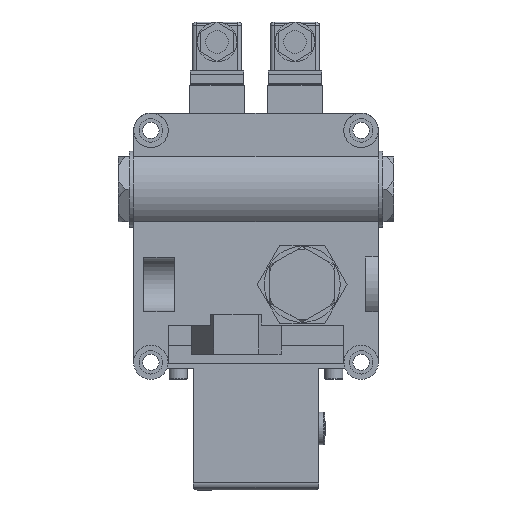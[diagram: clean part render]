
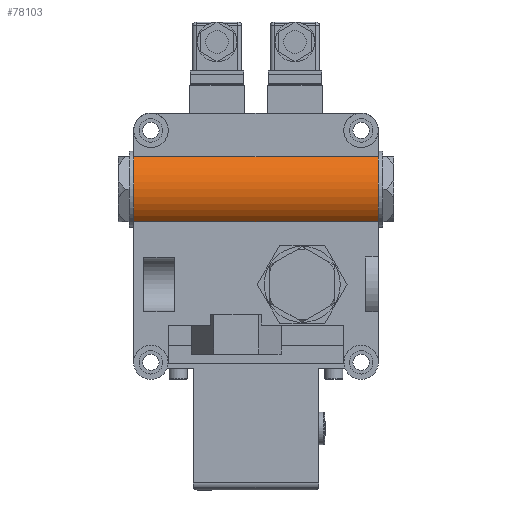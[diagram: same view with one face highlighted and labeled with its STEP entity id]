
A CAD part, front view. The second image highlights one B-rep face of the part: STEP entity #78103.
In plain terms, the highlighted cylindrical face has radius 24 mm (diameter 48 mm), a partial arc.
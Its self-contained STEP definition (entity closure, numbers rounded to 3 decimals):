
#3819 = VERTEX_POINT ( 'NONE', #20021 ) ;
#7786 = DIRECTION ( 'NONE',  ( 0., 0., -1. ) ) ;
#8376 = EDGE_CURVE ( 'NONE', #36100, #61249, #33470, .T. ) ;
#8415 = CARTESIAN_POINT ( 'NONE',  ( -67.5, -64.75, 68.111 ) ) ;
#9682 = ORIENTED_EDGE ( 'NONE', *, *, #8376, .F. ) ;
#12079 = EDGE_CURVE ( 'NONE', #3819, #22883, #44447, .T. ) ;
#14762 = EDGE_CURVE ( 'NONE', #22883, #36100, #56708, .T. ) ;
#18119 = CARTESIAN_POINT ( 'NONE',  ( 67.5, -48.75, 86. ) ) ;
#19392 = EDGE_LOOP ( 'NONE', ( #27434, #88117, #9682, #88107 ) ) ;
#20021 = CARTESIAN_POINT ( 'NONE',  ( -67.5, -64.75, 103.889 ) ) ;
#20037 = EDGE_CURVE ( 'NONE', #3819, #61249, #39459, .T. ) ;
#22883 = VERTEX_POINT ( 'NONE', #79455 ) ;
#24906 = AXIS2_PLACEMENT_3D ( 'NONE', #35635, #63496, #7786 ) ;
#27434 = ORIENTED_EDGE ( 'NONE', *, *, #12079, .F. ) ;
#31470 = CARTESIAN_POINT ( 'NONE',  ( 67.5, -48.75, 86. ) ) ;
#32553 = CARTESIAN_POINT ( 'NONE',  ( 67.5, -64.75, 68.111 ) ) ;
#33470 = LINE ( 'NONE', #32553, #86100 ) ;
#35635 = CARTESIAN_POINT ( 'NONE',  ( -67.5, -48.75, 86. ) ) ;
#36100 = VERTEX_POINT ( 'NONE', #66148 ) ;
#38662 = FACE_OUTER_BOUND ( 'NONE', #19392, .T. ) ;
#39459 = CIRCLE ( 'NONE', #24906, 24. ) ;
#40033 = CYLINDRICAL_SURFACE ( 'NONE', #87048, 24. ) ;
#44447 = LINE ( 'NONE', #85139, #78174 ) ;
#46436 = DIRECTION ( 'NONE',  ( 0., 0., -1. ) ) ;
#50891 = DIRECTION ( 'NONE',  ( 1., 0., 0. ) ) ;
#52034 = DIRECTION ( 'NONE',  ( 1., 0., 0. ) ) ;
#55064 = AXIS2_PLACEMENT_3D ( 'NONE', #31470, #52034, #86748 ) ;
#56708 = CIRCLE ( 'NONE', #55064, 24. ) ;
#61249 = VERTEX_POINT ( 'NONE', #8415 ) ;
#63496 = DIRECTION ( 'NONE',  ( 1., 0., 0. ) ) ;
#66148 = CARTESIAN_POINT ( 'NONE',  ( 67.5, -64.75, 68.111 ) ) ;
#74559 = DIRECTION ( 'NONE',  ( -1., 0., 0. ) ) ;
#78103 = ADVANCED_FACE ( 'NONE', ( #38662 ), #40033, .T. ) ;
#78174 = VECTOR ( 'NONE', #50891, 1000. ) ;
#79455 = CARTESIAN_POINT ( 'NONE',  ( 67.5, -64.75, 103.889 ) ) ;
#85139 = CARTESIAN_POINT ( 'NONE',  ( -67.5, -64.75, 103.889 ) ) ;
#86100 = VECTOR ( 'NONE', #74559, 1000. ) ;
#86748 = DIRECTION ( 'NONE',  ( 0., 0., -1. ) ) ;
#87048 = AXIS2_PLACEMENT_3D ( 'NONE', #18119, #88934, #46436 ) ;
#88107 = ORIENTED_EDGE ( 'NONE', *, *, #14762, .F. ) ;
#88117 = ORIENTED_EDGE ( 'NONE', *, *, #20037, .T. ) ;
#88934 = DIRECTION ( 'NONE',  ( -1., 0., 0. ) ) ;
